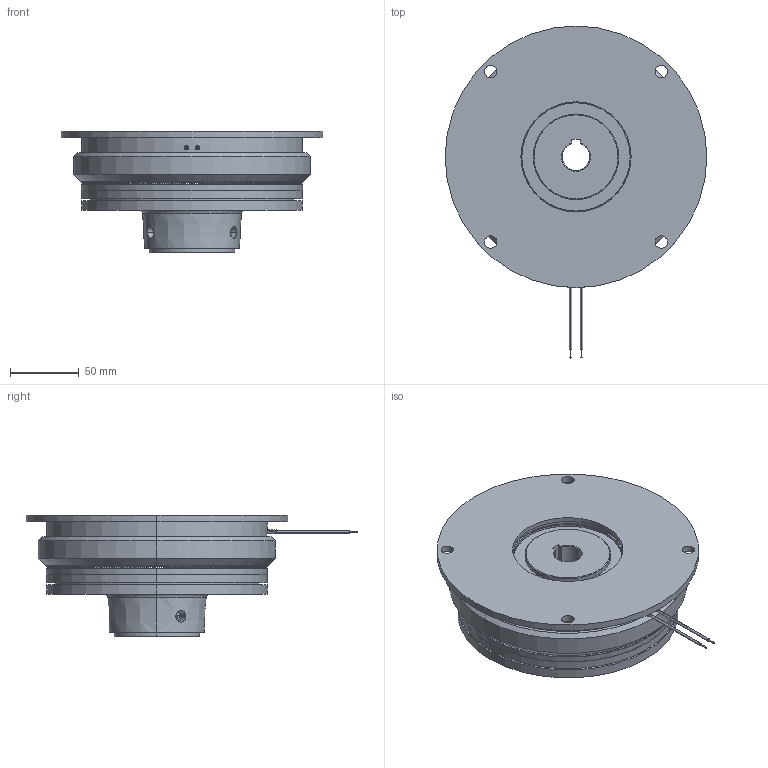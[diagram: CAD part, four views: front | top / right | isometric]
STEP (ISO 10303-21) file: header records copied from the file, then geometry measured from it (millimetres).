
FILE_DESCRIPTION (( 'STEP AP214' ), '1' );
FILE_NAME ('dr_bk_1007-130_mu.STEP', '2021-11-19T09:30:43', ( '' ), ( '' ), 'SwSTEP 2.0', 'SolidWorks 2019', '' );
FILE_SCHEMA (( 'AUTOMOTIVE_DESIGN' ));
Length unit declared in the file: millimetre
Products named in the file (11): dr_bk_1007-130_mu; 10069235_000_Kundenmodell; 10068864_000_Einbaul„nge 5,7mm; 10069167_000_M 10 x 16; 10068864_000_Einbaul„nge 5,65mm; 10068862_000; 10069178_000; 10069236_000; 10069238_000_Kundenmodell; 10068865_000; 10068870_000
Assembly tree (12 placements, depth 3):
  dr_bk_1007-130_mu
    10069178_000
    10069238_000_Kundenmodell
    10069235_000_Kundenmodell
      10068870_000
      10069236_000
      10068862_000
      10068865_000  x2
      10068864_000_Einbaul„nge 5,7mm
      10069167_000_M 10 x 16  x2
      10068864_000_Einbaul„nge 5,65mm
Bounding box: 190 x 241 x 88.55 mm (x, y, z)
Volume: 1185949.7 mm3; surface area: 262186.6 mm2
Topology: 13 solids, 13 shells, 3200 faces, 8924 edges, 5788 vertices
Faces by surface type: plane 2121, cylinder 502, cone 446, bspline 111, torus 16, sphere 4
Entity records: 125711 total; most frequent: CARTESIAN_POINT 50992, ORIENTED_EDGE 17704, DIRECTION 11914, EDGE_CURVE 8852, VERTEX_POINT 5751, B_SPLINE_CURVE_WITH_KNOTS 4532, AXIS2_PLACEMENT_3D 4518, EDGE_LOOP 3283
